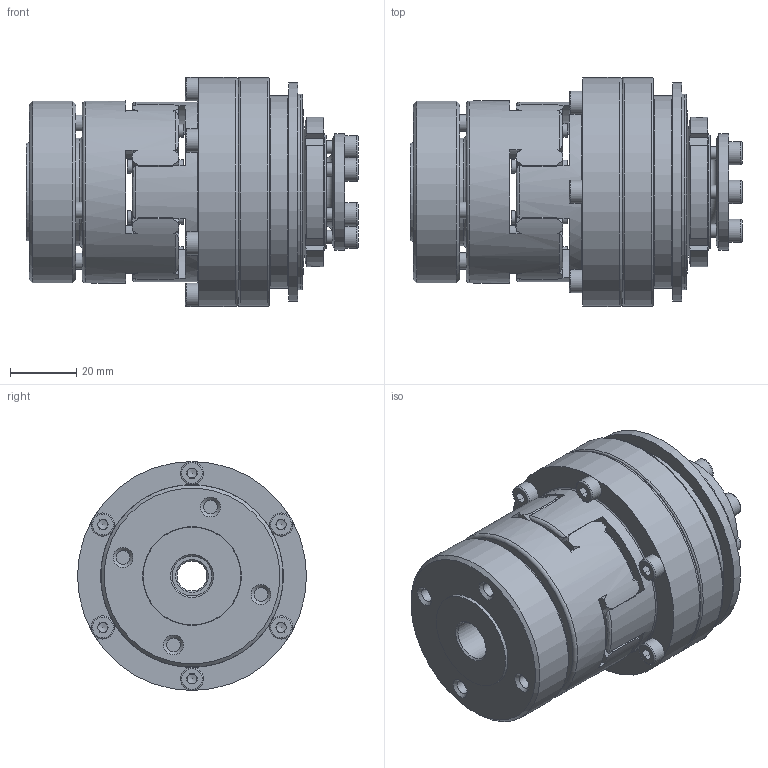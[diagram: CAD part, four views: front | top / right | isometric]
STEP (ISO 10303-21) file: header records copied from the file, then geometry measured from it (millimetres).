
FILE_DESCRIPTION( ( 'Unknown' ), '1' );
FILE_NAME( 'F:/JAKOB-STEP+IGES-Dateien/STEP-Dateien/SKY-ES/SKY-ES 30.stp', 'Unknown', ( 'Unknown' ), ( 'Unknown' ), 'PSStep 10.1', 'Unknown', ' ' );
FILE_SCHEMA( ( 'AUTOMOTIVE_DESIGN { 1 0 10303 214 1 1 1 1 }' ) );
Length unit declared in the file: millimetre
Products named in the file (1): kt101602
Bounding box: 100 x 69 x 69 mm (x, y, z)
Volume: 193472.5 mm3; surface area: 77359.9 mm2
Topology: 1 solids, 15 shells, 943 faces, 2521 edges, 1627 vertices
Faces by surface type: plane 465, cylinder 201, cone 120, torus 85, extrusion 60, sphere 12
Full cylindrical faces by diameter (mm): 2 x2, 3.3 x11, 3.4 x6, 4 x20, 4.2 x8, 4.3 x6, 4.6 x6, 5 x4, 5.4 x4, 7 x12, 8.5 x4, 9 x5, 12 x1, 12.5 x1, 18.1 x1, 20.5 x1, 27 x2, 28.6 x1, 29.8 x1, 30 x3, 32.5 x1, 35 x4, 35.2 x1, 36 x1, 38.2 x2, 38.893 x1, 39.293 x1, 43 x1, 47.1 x3, 54.2 x1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
Entity records: 36789 total; most frequent: CARTESIAN_POINT 7863, DIRECTION 4303, ORIENTED_EDGE 4146, EDGE_CURVE 2073, AXIS2_PLACEMENT_3D 1679, VERTEX_POINT 1459, EDGE_LOOP 1336, FACE_OUTER_BOUND 1103
